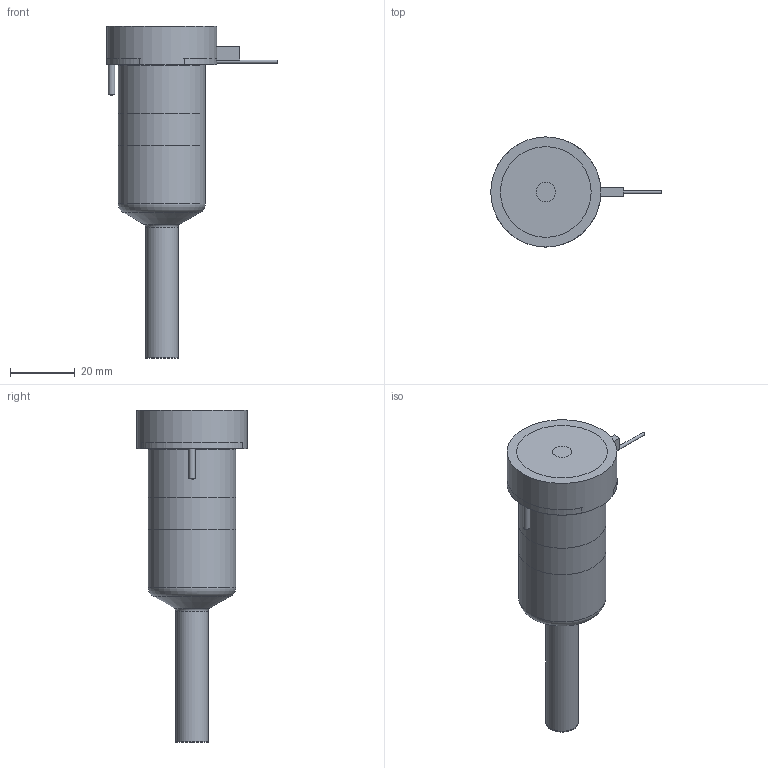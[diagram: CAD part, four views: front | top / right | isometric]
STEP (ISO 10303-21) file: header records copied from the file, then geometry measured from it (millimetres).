
FILE_DESCRIPTION(/* description */ (''),/* implementation_level */ '2;1');
FILE_NAME(/* name */ 'BXTSL-BXISL-BXOSL13055_250C_b',/* time_stamp */ '2008-04-29T14:05:55+12:00',/* author */ (''),/* organization */ (''),/* preprocessor_version */ 'ST-DEVELOPER v9',/* originating_system */ 'UGS - NX 4.0',/* authorisation */ '');
FILE_SCHEMA (('CONFIG_CONTROL_DESIGN'));
Length unit declared in the file: millimetre
Products named in the file (1): BXTSL-BXISL-BXOSL13055_250C_b
Bounding box: 52.65 x 34 x 102.5 mm (x, y, z)
Volume: 77741.6 mm3; surface area: 18802.9 mm2
Topology: 6 solids, 6 shells, 73 faces, 141 edges, 91 vertices
Faces by surface type: plane 34, cylinder 23, cone 8, torus 7, bspline 1
Full cylindrical faces by diameter (mm): 0.9 x1, 1 x3, 2 x2, 6 x1, 9.61 x1, 10.01 x2, 12.6 x1, 22.2 x1, 27 x2, 34 x1
Entity records: 1806 total; most frequent: CARTESIAN_POINT 357, DIRECTION 304, ORIENTED_EDGE 210, AXIS2_PLACEMENT_3D 134, EDGE_LOOP 112, EDGE_CURVE 105, VERTEX_POINT 84, ADVANCED_FACE 73
